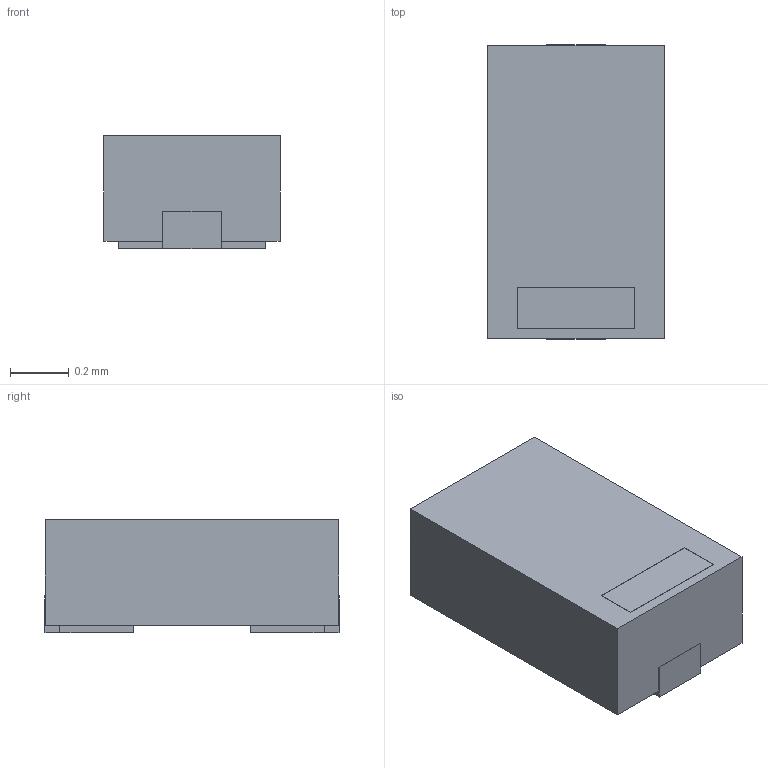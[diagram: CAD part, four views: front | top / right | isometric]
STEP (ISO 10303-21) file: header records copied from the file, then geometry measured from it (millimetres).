
FILE_DESCRIPTION(/* description */ (''),/* implementation_level */ '2;1');
FILE_NAME(/* name */ 'K:\ba\DCC\STP_Files\LLP1006-2L_3906_04_005\39060405.stp',/* time_stamp */ '2014-12-29T13:18:50+01:00',/* author */ ('brotzinger'),/* organization */ (''),/* preprocessor_version */ 'ST-DEVELOPER v15.2',/* originating_system */ 'Autodesk Inventor 2014',/* authorisation */ '');
FILE_SCHEMA (('AUTOMOTIVE_DESIGN { 1 0 10303 214 3 1 1 }'));
Length unit declared in the file: millimetre
Products named in the file (1): 39060405
Bounding box: 0.6 x 1 x 0.39 mm (x, y, z)
Volume: 0.2 mm3; surface area: 2.4 mm2
Topology: 1 solids, 1 shells, 31 faces, 84 edges, 56 vertices
Faces by surface type: plane 31
Entity records: 1014 total; most frequent: CARTESIAN_POINT 172, ORIENTED_EDGE 168, DIRECTION 148, LINE 84, VECTOR 84, EDGE_CURVE 84, VERTEX_POINT 56, EDGE_LOOP 32
